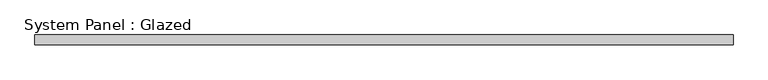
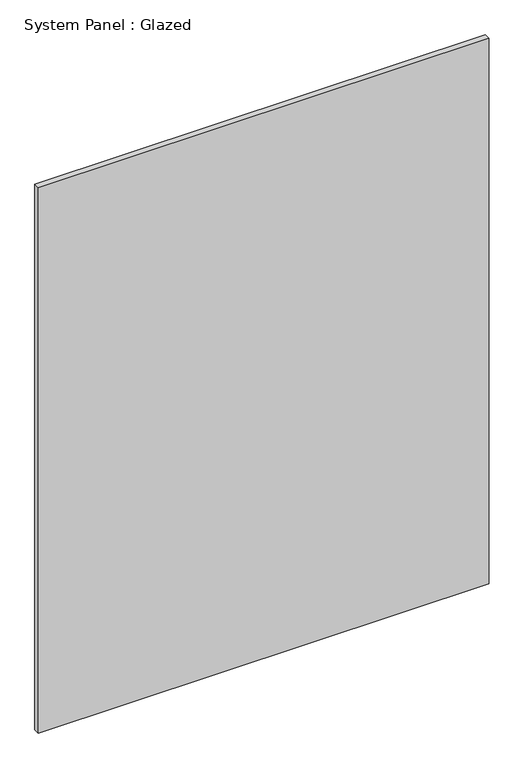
"""IFC4 building model written with IfcOpenShell, lengths in millimetres: plate geometry, System Panel : Glazed."""

from ifc_helpers import new_model, si_unit, origin, origin_with_axes, place, context, project, spatial, polyline, outline, extrude, source, transform, mapped, element, save


def system_panel_glazed_43576473(model_context):
    return source(origin(), model_context, "Body", "SweptSolid", [
        extrude(outline(polyline([(908.5889212, 24.5), (-908.5889212, 24.5), (-908.5889212, 49.5), (908.5889212, 49.5), (908.5889212, 24.5)])), origin_with_axes(), (0.0, 0.0, 1.0), 2325.0),
    ])


if __name__ == "__main__":
    model = new_model("IFC4")
    model_context = context("Model", 3, world=origin())
    ifc_project = project(units=[si_unit("LENGTHUNIT", "METRE", prefix="MILLI")], contexts=[model_context])
    site = spatial("IfcSite", under=ifc_project)
    building = spatial("IfcBuilding", under=site)
    placement = place(None, origin())
    system_panel_glazed_shape = system_panel_glazed_43576473(model_context)
    element("IfcPlate", 1, ObjectType="System Panel : Glazed", at=placement, inside=building, context=model_context, shape_type="MappedRepresentation", body=[
        mapped(system_panel_glazed_shape, transform((0.0, 0.0, 0.0), x_axis=(1.0, 0.0, 0.0), y_axis=(0.0, 1.0, 0.0), z_axis=(0.0, 0.0, 1.0))),
    ])
    save(model, "model.ifc")
